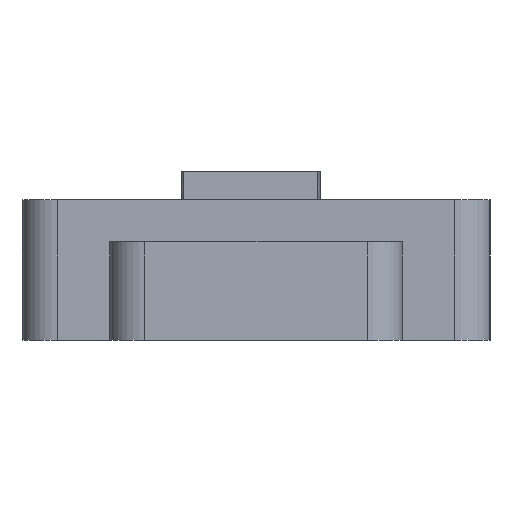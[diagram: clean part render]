
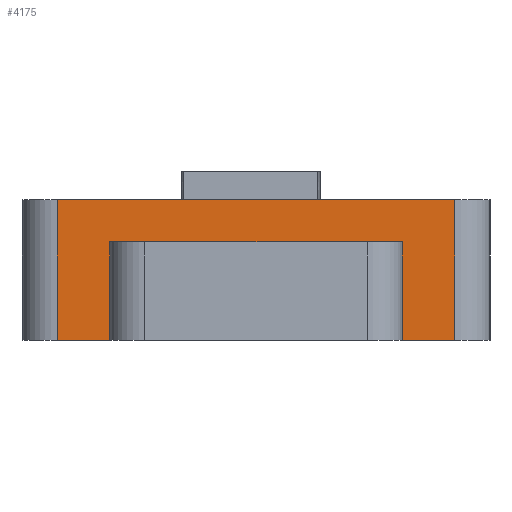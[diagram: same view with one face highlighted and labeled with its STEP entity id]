
A CAD part, left-side view. The second image highlights one B-rep face of the part: STEP entity #4175.
In plain terms, the highlighted planar face has unit normal (-1, 0, 0).
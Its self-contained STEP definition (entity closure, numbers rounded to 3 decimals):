
#62 = PLANE('',#63);
#63 = AXIS2_PLACEMENT_3D('',#64,#65,#66);
#64 = CARTESIAN_POINT('',(0.,0.,0.));
#65 = DIRECTION('',(0.,0.,1.));
#66 = DIRECTION('',(1.,0.,-0.));
#90 = CYLINDRICAL_SURFACE('',#91,0.6);
#91 = AXIS2_PLACEMENT_3D('',#92,#93,#94);
#92 = CARTESIAN_POINT('',(-14.25,-3.4,0.));
#93 = DIRECTION('',(0.,0.,1.));
#94 = DIRECTION('',(0.,-1.,0.));
#118 = PLANE('',#119);
#119 = AXIS2_PLACEMENT_3D('',#120,#121,#122);
#120 = CARTESIAN_POINT('',(0.,0.,2.4));
#121 = DIRECTION('',(0.,0.,1.));
#122 = DIRECTION('',(1.,0.,-0.));
#160 = VERTEX_POINT('',#161);
#161 = CARTESIAN_POINT('',(-14.85,-3.4,0.));
#463 = VERTEX_POINT('',#464);
#464 = CARTESIAN_POINT('',(-14.85,3.4,0.));
#479 = CYLINDRICAL_SURFACE('',#480,0.6);
#480 = AXIS2_PLACEMENT_3D('',#481,#482,#483);
#481 = CARTESIAN_POINT('',(-14.25,3.4,0.));
#482 = DIRECTION('',(0.,0.,1.));
#483 = DIRECTION('',(-0.,1.,0.));
#491 = EDGE_CURVE('',#463,#492,#494,.T.);
#492 = VERTEX_POINT('',#493);
#493 = CARTESIAN_POINT('',(-14.85,2.5,0.));
#494 = SURFACE_CURVE('',#495,(#499,#506),.PCURVE_S1.);
#495 = LINE('',#496,#497);
#496 = CARTESIAN_POINT('',(-14.85,4.,0.));
#497 = VECTOR('',#498,1.);
#498 = DIRECTION('',(0.,-1.,0.));
#499 = PCURVE('',#62,#500);
#500 = DEFINITIONAL_REPRESENTATION('',(#501),#505);
#501 = LINE('',#502,#503);
#502 = CARTESIAN_POINT('',(-14.85,4.));
#503 = VECTOR('',#504,1.);
#504 = DIRECTION('',(0.,-1.));
#505 = ( GEOMETRIC_REPRESENTATION_CONTEXT(2) 
PARAMETRIC_REPRESENTATION_CONTEXT() REPRESENTATION_CONTEXT('2D SPACE',''
  ) );
#506 = PCURVE('',#507,#512);
#507 = PLANE('',#508);
#508 = AXIS2_PLACEMENT_3D('',#509,#510,#511);
#509 = CARTESIAN_POINT('',(-14.85,4.,0.));
#510 = DIRECTION('',(1.,0.,-0.));
#511 = DIRECTION('',(0.,-1.,0.));
#512 = DEFINITIONAL_REPRESENTATION('',(#513),#517);
#513 = LINE('',#514,#515);
#514 = CARTESIAN_POINT('',(0.,0.));
#515 = VECTOR('',#516,1.);
#516 = DIRECTION('',(1.,0.));
#517 = ( GEOMETRIC_REPRESENTATION_CONTEXT(2) 
PARAMETRIC_REPRESENTATION_CONTEXT() REPRESENTATION_CONTEXT('2D SPACE',''
  ) );
#535 = PLANE('',#536);
#536 = AXIS2_PLACEMENT_3D('',#537,#538,#539);
#537 = CARTESIAN_POINT('',(-13.85,2.5,0.));
#538 = DIRECTION('',(0.,-1.,0.));
#539 = DIRECTION('',(-1.,0.,0.));
#638 = VERTEX_POINT('',#639);
#639 = CARTESIAN_POINT('',(-14.85,-2.5,0.));
#653 = PLANE('',#654);
#654 = AXIS2_PLACEMENT_3D('',#655,#656,#657);
#655 = CARTESIAN_POINT('',(-17.25,-2.5,0.));
#656 = DIRECTION('',(0.,1.,0.));
#657 = DIRECTION('',(1.,0.,0.));
#665 = EDGE_CURVE('',#638,#160,#666,.T.);
#666 = SURFACE_CURVE('',#667,(#671,#678),.PCURVE_S1.);
#667 = LINE('',#668,#669);
#668 = CARTESIAN_POINT('',(-14.85,4.,0.));
#669 = VECTOR('',#670,1.);
#670 = DIRECTION('',(0.,-1.,0.));
#671 = PCURVE('',#62,#672);
#672 = DEFINITIONAL_REPRESENTATION('',(#673),#677);
#673 = LINE('',#674,#675);
#674 = CARTESIAN_POINT('',(-14.85,4.));
#675 = VECTOR('',#676,1.);
#676 = DIRECTION('',(0.,-1.));
#677 = ( GEOMETRIC_REPRESENTATION_CONTEXT(2) 
PARAMETRIC_REPRESENTATION_CONTEXT() REPRESENTATION_CONTEXT('2D SPACE',''
  ) );
#678 = PCURVE('',#507,#679);
#679 = DEFINITIONAL_REPRESENTATION('',(#680),#684);
#680 = LINE('',#681,#682);
#681 = CARTESIAN_POINT('',(0.,0.));
#682 = VECTOR('',#683,1.);
#683 = DIRECTION('',(1.,0.));
#684 = ( GEOMETRIC_REPRESENTATION_CONTEXT(2) 
PARAMETRIC_REPRESENTATION_CONTEXT() REPRESENTATION_CONTEXT('2D SPACE',''
  ) );
#690 = EDGE_CURVE('',#160,#691,#693,.T.);
#691 = VERTEX_POINT('',#692);
#692 = CARTESIAN_POINT('',(-14.85,-3.4,2.4));
#693 = SURFACE_CURVE('',#694,(#698,#705),.PCURVE_S1.);
#694 = LINE('',#695,#696);
#695 = CARTESIAN_POINT('',(-14.85,-3.4,0.));
#696 = VECTOR('',#697,1.);
#697 = DIRECTION('',(0.,0.,1.));
#698 = PCURVE('',#90,#699);
#699 = DEFINITIONAL_REPRESENTATION('',(#700),#704);
#700 = LINE('',#701,#702);
#701 = CARTESIAN_POINT('',(-1.571,0.));
#702 = VECTOR('',#703,1.);
#703 = DIRECTION('',(-0.,1.));
#704 = ( GEOMETRIC_REPRESENTATION_CONTEXT(2) 
PARAMETRIC_REPRESENTATION_CONTEXT() REPRESENTATION_CONTEXT('2D SPACE',''
  ) );
#705 = PCURVE('',#507,#706);
#706 = DEFINITIONAL_REPRESENTATION('',(#707),#711);
#707 = LINE('',#708,#709);
#708 = CARTESIAN_POINT('',(7.4,0.));
#709 = VECTOR('',#710,1.);
#710 = DIRECTION('',(0.,-1.));
#711 = ( GEOMETRIC_REPRESENTATION_CONTEXT(2) 
PARAMETRIC_REPRESENTATION_CONTEXT() REPRESENTATION_CONTEXT('2D SPACE',''
  ) );
#866 = VERTEX_POINT('',#867);
#867 = CARTESIAN_POINT('',(-14.85,3.4,2.4));
#889 = EDGE_CURVE('',#866,#691,#890,.T.);
#890 = SURFACE_CURVE('',#891,(#895,#902),.PCURVE_S1.);
#891 = LINE('',#892,#893);
#892 = CARTESIAN_POINT('',(-14.85,4.,2.4));
#893 = VECTOR('',#894,1.);
#894 = DIRECTION('',(0.,-1.,0.));
#895 = PCURVE('',#118,#896);
#896 = DEFINITIONAL_REPRESENTATION('',(#897),#901);
#897 = LINE('',#898,#899);
#898 = CARTESIAN_POINT('',(-14.85,4.));
#899 = VECTOR('',#900,1.);
#900 = DIRECTION('',(0.,-1.));
#901 = ( GEOMETRIC_REPRESENTATION_CONTEXT(2) 
PARAMETRIC_REPRESENTATION_CONTEXT() REPRESENTATION_CONTEXT('2D SPACE',''
  ) );
#902 = PCURVE('',#507,#903);
#903 = DEFINITIONAL_REPRESENTATION('',(#904),#908);
#904 = LINE('',#905,#906);
#905 = CARTESIAN_POINT('',(0.,-2.4));
#906 = VECTOR('',#907,1.);
#907 = DIRECTION('',(1.,0.));
#908 = ( GEOMETRIC_REPRESENTATION_CONTEXT(2) 
PARAMETRIC_REPRESENTATION_CONTEXT() REPRESENTATION_CONTEXT('2D SPACE',''
  ) );
#4175 = ADVANCED_FACE('',(#4176),#507,.F.);
#4176 = FACE_BOUND('',#4177,.F.);
#4177 = EDGE_LOOP('',(#4178,#4179,#4200,#4201,#4202,#4203,#4224,#4250));
#4178 = ORIENTED_EDGE('',*,*,#491,.F.);
#4179 = ORIENTED_EDGE('',*,*,#4180,.T.);
#4180 = EDGE_CURVE('',#463,#866,#4181,.T.);
#4181 = SURFACE_CURVE('',#4182,(#4186,#4193),.PCURVE_S1.);
#4182 = LINE('',#4183,#4184);
#4183 = CARTESIAN_POINT('',(-14.85,3.4,0.));
#4184 = VECTOR('',#4185,1.);
#4185 = DIRECTION('',(0.,0.,1.));
#4186 = PCURVE('',#507,#4187);
#4187 = DEFINITIONAL_REPRESENTATION('',(#4188),#4192);
#4188 = LINE('',#4189,#4190);
#4189 = CARTESIAN_POINT('',(0.6,0.));
#4190 = VECTOR('',#4191,1.);
#4191 = DIRECTION('',(0.,-1.));
#4192 = ( GEOMETRIC_REPRESENTATION_CONTEXT(2) 
PARAMETRIC_REPRESENTATION_CONTEXT() REPRESENTATION_CONTEXT('2D SPACE',''
  ) );
#4193 = PCURVE('',#479,#4194);
#4194 = DEFINITIONAL_REPRESENTATION('',(#4195),#4199);
#4195 = LINE('',#4196,#4197);
#4196 = CARTESIAN_POINT('',(1.571,0.));
#4197 = VECTOR('',#4198,1.);
#4198 = DIRECTION('',(0.,1.));
#4199 = ( GEOMETRIC_REPRESENTATION_CONTEXT(2) 
PARAMETRIC_REPRESENTATION_CONTEXT() REPRESENTATION_CONTEXT('2D SPACE',''
  ) );
#4200 = ORIENTED_EDGE('',*,*,#889,.T.);
#4201 = ORIENTED_EDGE('',*,*,#690,.F.);
#4202 = ORIENTED_EDGE('',*,*,#665,.F.);
#4203 = ORIENTED_EDGE('',*,*,#4204,.T.);
#4204 = EDGE_CURVE('',#638,#4205,#4207,.T.);
#4205 = VERTEX_POINT('',#4206);
#4206 = CARTESIAN_POINT('',(-14.85,-2.5,1.68));
#4207 = SURFACE_CURVE('',#4208,(#4212,#4218),.PCURVE_S1.);
#4208 = LINE('',#4209,#4210);
#4209 = CARTESIAN_POINT('',(-14.85,-2.5,0.));
#4210 = VECTOR('',#4211,1.);
#4211 = DIRECTION('',(0.,-0.,1.));
#4212 = PCURVE('',#507,#4213);
#4213 = DEFINITIONAL_REPRESENTATION('',(#4214),#4217);
#4214 = B_SPLINE_CURVE_WITH_KNOTS('',1,(#4215,#4216),.UNSPECIFIED.,.F.,
  .F.,(2,2),(0.,1.68),.PIECEWISE_BEZIER_KNOTS.);
#4215 = CARTESIAN_POINT('',(6.5,0.));
#4216 = CARTESIAN_POINT('',(6.5,-1.68));
#4217 = ( GEOMETRIC_REPRESENTATION_CONTEXT(2) 
PARAMETRIC_REPRESENTATION_CONTEXT() REPRESENTATION_CONTEXT('2D SPACE',''
  ) );
#4218 = PCURVE('',#653,#4219);
#4219 = DEFINITIONAL_REPRESENTATION('',(#4220),#4223);
#4220 = B_SPLINE_CURVE_WITH_KNOTS('',1,(#4221,#4222),.UNSPECIFIED.,.F.,
  .F.,(2,2),(0.,1.68),.PIECEWISE_BEZIER_KNOTS.);
#4221 = CARTESIAN_POINT('',(2.4,0.));
#4222 = CARTESIAN_POINT('',(2.4,-1.68));
#4223 = ( GEOMETRIC_REPRESENTATION_CONTEXT(2) 
PARAMETRIC_REPRESENTATION_CONTEXT() REPRESENTATION_CONTEXT('2D SPACE',''
  ) );
#4224 = ORIENTED_EDGE('',*,*,#4225,.F.);
#4225 = EDGE_CURVE('',#4226,#4205,#4228,.T.);
#4226 = VERTEX_POINT('',#4227);
#4227 = CARTESIAN_POINT('',(-14.85,2.5,1.68));
#4228 = SURFACE_CURVE('',#4229,(#4233,#4239),.PCURVE_S1.);
#4229 = LINE('',#4230,#4231);
#4230 = CARTESIAN_POINT('',(-14.85,2.,1.68));
#4231 = VECTOR('',#4232,1.);
#4232 = DIRECTION('',(0.,-1.,0.));
#4233 = PCURVE('',#507,#4234);
#4234 = DEFINITIONAL_REPRESENTATION('',(#4235),#4238);
#4235 = B_SPLINE_CURVE_WITH_KNOTS('',1,(#4236,#4237),.UNSPECIFIED.,.F.,
  .F.,(2,2),(-0.5,4.5),.PIECEWISE_BEZIER_KNOTS.);
#4236 = CARTESIAN_POINT('',(1.5,-1.68));
#4237 = CARTESIAN_POINT('',(6.5,-1.68));
#4238 = ( GEOMETRIC_REPRESENTATION_CONTEXT(2) 
PARAMETRIC_REPRESENTATION_CONTEXT() REPRESENTATION_CONTEXT('2D SPACE',''
  ) );
#4239 = PCURVE('',#4240,#4245);
#4240 = PLANE('',#4241);
#4241 = AXIS2_PLACEMENT_3D('',#4242,#4243,#4244);
#4242 = CARTESIAN_POINT('',(-15.55,0.,1.68));
#4243 = DIRECTION('',(0.,0.,1.));
#4244 = DIRECTION('',(1.,0.,-0.));
#4245 = DEFINITIONAL_REPRESENTATION('',(#4246),#4249);
#4246 = B_SPLINE_CURVE_WITH_KNOTS('',1,(#4247,#4248),.UNSPECIFIED.,.F.,
  .F.,(2,2),(-0.5,4.5),.PIECEWISE_BEZIER_KNOTS.);
#4247 = CARTESIAN_POINT('',(0.7,2.5));
#4248 = CARTESIAN_POINT('',(0.7,-2.5));
#4249 = ( GEOMETRIC_REPRESENTATION_CONTEXT(2) 
PARAMETRIC_REPRESENTATION_CONTEXT() REPRESENTATION_CONTEXT('2D SPACE',''
  ) );
#4250 = ORIENTED_EDGE('',*,*,#4251,.T.);
#4251 = EDGE_CURVE('',#4226,#492,#4252,.T.);
#4252 = SURFACE_CURVE('',#4253,(#4257,#4263),.PCURVE_S1.);
#4253 = LINE('',#4254,#4255);
#4254 = CARTESIAN_POINT('',(-14.85,2.5,0.));
#4255 = VECTOR('',#4256,1.);
#4256 = DIRECTION('',(0.,-0.,-1.));
#4257 = PCURVE('',#507,#4258);
#4258 = DEFINITIONAL_REPRESENTATION('',(#4259),#4262);
#4259 = B_SPLINE_CURVE_WITH_KNOTS('',1,(#4260,#4261),.UNSPECIFIED.,.F.,
  .F.,(2,2),(-1.68,0.),.PIECEWISE_BEZIER_KNOTS.);
#4260 = CARTESIAN_POINT('',(1.5,-1.68));
#4261 = CARTESIAN_POINT('',(1.5,0.));
#4262 = ( GEOMETRIC_REPRESENTATION_CONTEXT(2) 
PARAMETRIC_REPRESENTATION_CONTEXT() REPRESENTATION_CONTEXT('2D SPACE',''
  ) );
#4263 = PCURVE('',#535,#4264);
#4264 = DEFINITIONAL_REPRESENTATION('',(#4265),#4268);
#4265 = B_SPLINE_CURVE_WITH_KNOTS('',1,(#4266,#4267),.UNSPECIFIED.,.F.,
  .F.,(2,2),(-1.68,0.),.PIECEWISE_BEZIER_KNOTS.);
#4266 = CARTESIAN_POINT('',(1.,-1.68));
#4267 = CARTESIAN_POINT('',(1.,0.));
#4268 = ( GEOMETRIC_REPRESENTATION_CONTEXT(2) 
PARAMETRIC_REPRESENTATION_CONTEXT() REPRESENTATION_CONTEXT('2D SPACE',''
  ) );
